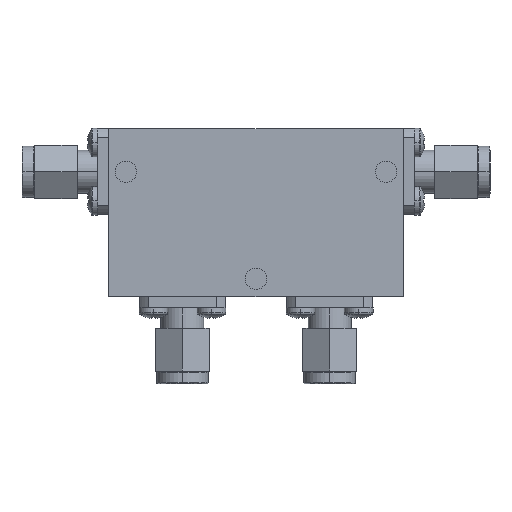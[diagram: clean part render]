
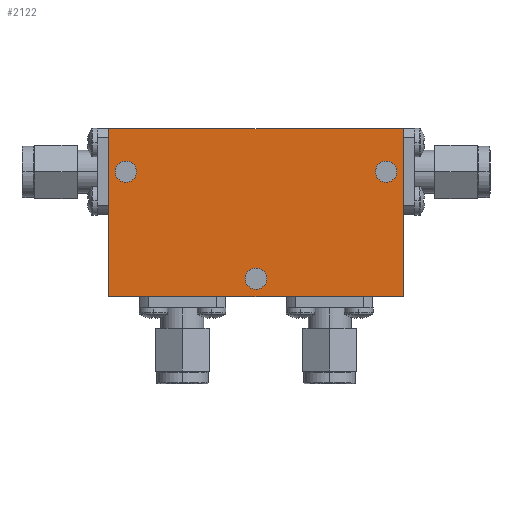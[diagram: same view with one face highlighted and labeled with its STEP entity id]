
A CAD part, top view. The second image highlights one B-rep face of the part: STEP entity #2122.
In plain terms, the highlighted planar face has unit normal (0, 0, 1).
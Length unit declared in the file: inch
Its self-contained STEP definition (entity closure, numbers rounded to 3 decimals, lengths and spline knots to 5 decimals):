
#102 = VECTOR ( 'NONE', #1585, 39.37008 ) ;
#120 = DIRECTION ( 'NONE',  ( 0., -1., 0. ) ) ;
#134 = VERTEX_POINT ( 'NONE', #1717 ) ;
#211 = EDGE_LOOP ( 'NONE', ( #2247, #2104 ) ) ;
#220 = PLANE ( 'NONE',  #3351 ) ;
#232 = CARTESIAN_POINT ( 'NONE',  ( 0., -0.385, 0.25 ) ) ;
#262 = CIRCLE ( 'NONE', #773, 0.0625 ) ;
#284 = CARTESIAN_POINT ( 'NONE',  ( 0., 0., 0.25 ) ) ;
#403 = VERTEX_POINT ( 'NONE', #1577 ) ;
#411 = LINE ( 'NONE', #2814, #1633 ) ;
#432 = AXIS2_PLACEMENT_3D ( 'NONE', #580, #1844, #2659 ) ;
#454 = CIRCLE ( 'NONE', #432, 0.0625 ) ;
#458 = FACE_BOUND ( 'NONE', #211, .T. ) ;
#479 = VERTEX_POINT ( 'NONE', #2428 ) ;
#480 = CARTESIAN_POINT ( 'NONE',  ( -0.86, 0.49, 0.25 ) ) ;
#528 = FACE_BOUND ( 'NONE', #1957, .T. ) ;
#530 = CARTESIAN_POINT ( 'NONE',  ( 0.76, 0.24, 0.25 ) ) ;
#580 = CARTESIAN_POINT ( 'NONE',  ( -0.76, 0.24, 0.25 ) ) ;
#599 = ORIENTED_EDGE ( 'NONE', *, *, #2507, .F. ) ;
#729 = VERTEX_POINT ( 'NONE', #1621 ) ;
#764 = LINE ( 'NONE', #480, #937 ) ;
#765 = DIRECTION ( 'NONE',  ( 1., 0., 0. ) ) ;
#773 = AXIS2_PLACEMENT_3D ( 'NONE', #1319, #2363, #807 ) ;
#791 = CARTESIAN_POINT ( 'NONE',  ( 0.86, 0.49, 0.25 ) ) ;
#796 = CARTESIAN_POINT ( 'NONE',  ( -0.86, -0.49, 0.25 ) ) ;
#807 = DIRECTION ( 'NONE',  ( 1., 0., 0. ) ) ;
#937 = VECTOR ( 'NONE', #2007, 39.37008 ) ;
#950 = ORIENTED_EDGE ( 'NONE', *, *, #2598, .T. ) ;
#991 = ORIENTED_EDGE ( 'NONE', *, *, #2023, .F. ) ;
#1005 = CARTESIAN_POINT ( 'NONE',  ( -0.6975, 0.24, 0.25 ) ) ;
#1011 = CARTESIAN_POINT ( 'NONE',  ( -0.86, 0.49, 0.25 ) ) ;
#1059 = EDGE_CURVE ( 'NONE', #729, #1391, #411, .T. ) ;
#1067 = CIRCLE ( 'NONE', #2393, 0.0625 ) ;
#1097 = DIRECTION ( 'NONE',  ( 0., 0., 1. ) ) ;
#1218 = VERTEX_POINT ( 'NONE', #1005 ) ;
#1229 = EDGE_CURVE ( 'NONE', #1391, #3348, #764, .T. ) ;
#1274 = VERTEX_POINT ( 'NONE', #3315 ) ;
#1292 = ORIENTED_EDGE ( 'NONE', *, *, #2484, .F. ) ;
#1319 = CARTESIAN_POINT ( 'NONE',  ( 0.76, 0.24, 0.25 ) ) ;
#1391 = VERTEX_POINT ( 'NONE', #791 ) ;
#1405 = EDGE_CURVE ( 'NONE', #1218, #1664, #454, .T. ) ;
#1427 = EDGE_CURVE ( 'NONE', #1664, #1218, #1522, .T. ) ;
#1429 = EDGE_LOOP ( 'NONE', ( #1292, #2904 ) ) ;
#1522 = CIRCLE ( 'NONE', #2773, 0.0625 ) ;
#1577 = CARTESIAN_POINT ( 'NONE',  ( -0.86, -0.49, 0.25 ) ) ;
#1585 = DIRECTION ( 'NONE',  ( 1., 0., 0. ) ) ;
#1591 = DIRECTION ( 'NONE',  ( 1., 0., 0. ) ) ;
#1592 = FACE_OUTER_BOUND ( 'NONE', #3339, .T. ) ;
#1603 = CARTESIAN_POINT ( 'NONE',  ( -0.76, 0.24, 0.25 ) ) ;
#1621 = CARTESIAN_POINT ( 'NONE',  ( 0.86, -0.49, 0.25 ) ) ;
#1630 = AXIS2_PLACEMENT_3D ( 'NONE', #232, #2291, #2548 ) ;
#1633 = VECTOR ( 'NONE', #2770, 39.37008 ) ;
#1664 = VERTEX_POINT ( 'NONE', #3001 ) ;
#1717 = CARTESIAN_POINT ( 'NONE',  ( 0.6975, 0.24, 0.25 ) ) ;
#1824 = DIRECTION ( 'NONE',  ( 1., 0., 0. ) ) ;
#1844 = DIRECTION ( 'NONE',  ( 0., 0., 1. ) ) ;
#1870 = LINE ( 'NONE', #2975, #2292 ) ;
#1955 = ORIENTED_EDGE ( 'NONE', *, *, #2479, .T. ) ;
#1957 = EDGE_LOOP ( 'NONE', ( #599, #991 ) ) ;
#2007 = DIRECTION ( 'NONE',  ( -1., 0., 0. ) ) ;
#2013 = FACE_BOUND ( 'NONE', #1429, .T. ) ;
#2023 = EDGE_CURVE ( 'NONE', #1274, #2554, #2986, .T. ) ;
#2104 = ORIENTED_EDGE ( 'NONE', *, *, #1427, .F. ) ;
#2111 = EDGE_CURVE ( 'NONE', #134, #479, #1067, .T. ) ;
#2122 = ADVANCED_FACE ( 'NONE', ( #2013, #528, #458, #1592 ), #220, .T. ) ;
#2247 = ORIENTED_EDGE ( 'NONE', *, *, #1405, .F. ) ;
#2291 = DIRECTION ( 'NONE',  ( 0., 0., 1. ) ) ;
#2292 = VECTOR ( 'NONE', #120, 39.37008 ) ;
#2363 = DIRECTION ( 'NONE',  ( 0., 0., 1. ) ) ;
#2393 = AXIS2_PLACEMENT_3D ( 'NONE', #530, #3111, #765 ) ;
#2428 = CARTESIAN_POINT ( 'NONE',  ( 0.8225, 0.24, 0.25 ) ) ;
#2479 = EDGE_CURVE ( 'NONE', #403, #729, #2938, .T. ) ;
#2484 = EDGE_CURVE ( 'NONE', #479, #134, #262, .T. ) ;
#2507 = EDGE_CURVE ( 'NONE', #2554, #1274, #2826, .T. ) ;
#2548 = DIRECTION ( 'NONE',  ( 1., 0., 0. ) ) ;
#2554 = VERTEX_POINT ( 'NONE', #2917 ) ;
#2598 = EDGE_CURVE ( 'NONE', #3348, #403, #1870, .T. ) ;
#2659 = DIRECTION ( 'NONE',  ( 1., 0., 0. ) ) ;
#2770 = DIRECTION ( 'NONE',  ( 0., 1., 0. ) ) ;
#2773 = AXIS2_PLACEMENT_3D ( 'NONE', #1603, #3192, #1591 ) ;
#2814 = CARTESIAN_POINT ( 'NONE',  ( 0.86, 0.49, 0.25 ) ) ;
#2826 = CIRCLE ( 'NONE', #3316, 0.0625 ) ;
#2882 = DIRECTION ( 'NONE',  ( 0., 0., 1. ) ) ;
#2904 = ORIENTED_EDGE ( 'NONE', *, *, #2111, .F. ) ;
#2917 = CARTESIAN_POINT ( 'NONE',  ( 0.0625, -0.385, 0.25 ) ) ;
#2938 = LINE ( 'NONE', #796, #102 ) ;
#2975 = CARTESIAN_POINT ( 'NONE',  ( -0.86, 0.49, 0.25 ) ) ;
#2986 = CIRCLE ( 'NONE', #1630, 0.0625 ) ;
#3001 = CARTESIAN_POINT ( 'NONE',  ( -0.8225, 0.24, 0.25 ) ) ;
#3080 = ORIENTED_EDGE ( 'NONE', *, *, #1229, .T. ) ;
#3111 = DIRECTION ( 'NONE',  ( 0., 0., 1. ) ) ;
#3164 = DIRECTION ( 'NONE',  ( 1., 0., 0. ) ) ;
#3185 = CARTESIAN_POINT ( 'NONE',  ( 0., -0.385, 0.25 ) ) ;
#3192 = DIRECTION ( 'NONE',  ( 0., 0., 1. ) ) ;
#3315 = CARTESIAN_POINT ( 'NONE',  ( -0.0625, -0.385, 0.25 ) ) ;
#3316 = AXIS2_PLACEMENT_3D ( 'NONE', #3185, #1097, #3164 ) ;
#3328 = ORIENTED_EDGE ( 'NONE', *, *, #1059, .T. ) ;
#3339 = EDGE_LOOP ( 'NONE', ( #3328, #3080, #950, #1955 ) ) ;
#3348 = VERTEX_POINT ( 'NONE', #1011 ) ;
#3351 = AXIS2_PLACEMENT_3D ( 'NONE', #284, #2882, #1824 ) ;
